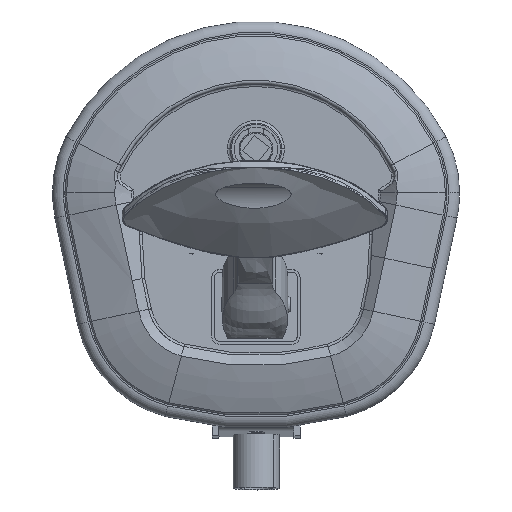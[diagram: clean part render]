
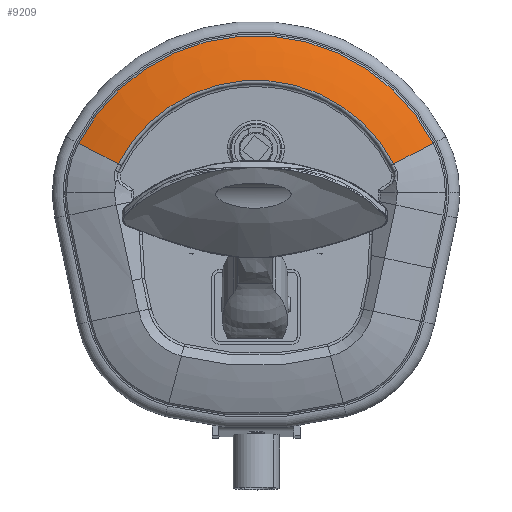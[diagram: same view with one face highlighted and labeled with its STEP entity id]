
A CAD part, top view. The second image highlights one B-rep face of the part: STEP entity #9209.
In plain terms, the highlighted toroidal (fillet/blend) face has major radius 20.931 mm and minor radius 138 mm.
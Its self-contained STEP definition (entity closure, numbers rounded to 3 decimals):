
#2242 = EDGE_CURVE ( 'NONE', #27424, #43920, #24034, .T. ) ;
#3487 = CARTESIAN_POINT ( 'NONE',  ( 64.961, 29.88, 1.226 ) ) ;
#3953 = DIRECTION ( 'NONE',  ( 0., 0., -1. ) ) ;
#4033 = ORIENTED_EDGE ( 'NONE', *, *, #28539, .F. ) ;
#4278 = DIRECTION ( 'NONE',  ( 0., 0., -1. ) ) ;
#5275 = AXIS2_PLACEMENT_3D ( 'NONE', #19286, #43440, #22753 ) ;
#6998 = CARTESIAN_POINT ( 'NONE',  ( 18.583, 5.842, -126.505 ) ) ;
#8133 = ORIENTED_EDGE ( 'NONE', *, *, #40581, .F. ) ;
#9209 = ADVANCED_FACE ( 'NONE', ( #15631 ), #16695, .T. ) ;
#9715 = CIRCLE ( 'NONE', #20664, 73.169 ) ;
#10480 = DIRECTION ( 'NONE',  ( -0.888, -0.46, 0. ) ) ;
#14276 = ORIENTED_EDGE ( 'NONE', *, *, #20657, .T. ) ;
#15185 = VERTEX_POINT ( 'NONE', #42945 ) ;
#15631 = FACE_OUTER_BOUND ( 'NONE', #26619, .T. ) ;
#16695 = TOROIDAL_SURFACE ( 'NONE', #26848, 20.931, 138. ) ;
#19286 = CARTESIAN_POINT ( 'NONE',  ( -18.583, 5.842, -126.505 ) ) ;
#20492 = DIRECTION ( 'NONE',  ( 0., 0., -1. ) ) ;
#20657 = EDGE_CURVE ( 'NONE', #15185, #27424, #39287, .T. ) ;
#20664 = AXIS2_PLACEMENT_3D ( 'NONE', #24603, #3953, #28058 ) ;
#21618 = CARTESIAN_POINT ( 'NONE',  ( 50.378, 22.321, 6.767 ) ) ;
#21824 = ORIENTED_EDGE ( 'NONE', *, *, #2242, .T. ) ;
#22753 = DIRECTION ( 'NONE',  ( 0.888, -0.46, 0. ) ) ;
#24034 = CIRCLE ( 'NONE', #26887, 56.743 ) ;
#24284 = CARTESIAN_POINT ( 'NONE',  ( -50.378, 22.321, 6.767 ) ) ;
#24603 = CARTESIAN_POINT ( 'NONE',  ( 0., -3.79, 1.226 ) ) ;
#26619 = EDGE_LOOP ( 'NONE', ( #14276, #21824, #8133, #4033 ) ) ;
#26848 = AXIS2_PLACEMENT_3D ( 'NONE', #31857, #4278, #35379 ) ;
#26887 = AXIS2_PLACEMENT_3D ( 'NONE', #41162, #20492, #44647 ) ;
#27424 = VERTEX_POINT ( 'NONE', #24284 ) ;
#28058 = DIRECTION ( 'NONE',  ( -0.888, 0.46, 0. ) ) ;
#28539 = EDGE_CURVE ( 'NONE', #15185, #30731, #9715, .T. ) ;
#30731 = VERTEX_POINT ( 'NONE', #3487 ) ;
#31082 = DIRECTION ( 'NONE',  ( 0.46, -0.888, 0. ) ) ;
#31857 = CARTESIAN_POINT ( 'NONE',  ( 0., -3.79, -126.505 ) ) ;
#35379 = DIRECTION ( 'NONE',  ( -1., 0., 0. ) ) ;
#37933 = CIRCLE ( 'NONE', #41250, 138. ) ;
#39287 = CIRCLE ( 'NONE', #5275, 138. ) ;
#40581 = EDGE_CURVE ( 'NONE', #30731, #43920, #37933, .T. ) ;
#41162 = CARTESIAN_POINT ( 'NONE',  ( 0., -3.79, 6.767 ) ) ;
#41250 = AXIS2_PLACEMENT_3D ( 'NONE', #6998, #31082, #10480 ) ;
#42945 = CARTESIAN_POINT ( 'NONE',  ( -64.961, 29.88, 1.226 ) ) ;
#43440 = DIRECTION ( 'NONE',  ( 0.46, 0.888, 0. ) ) ;
#43920 = VERTEX_POINT ( 'NONE', #21618 ) ;
#44647 = DIRECTION ( 'NONE',  ( -1., 0., 0. ) ) ;
